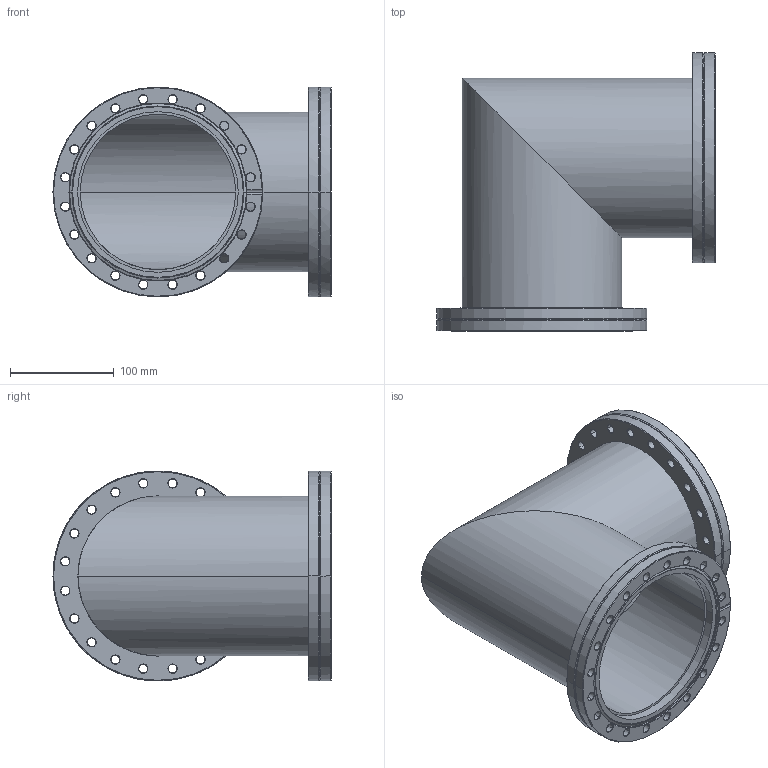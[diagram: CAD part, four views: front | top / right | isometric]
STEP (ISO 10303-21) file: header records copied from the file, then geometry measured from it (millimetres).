
FILE_DESCRIPTION((''),'2;1');
FILE_NAME('N:\Transfer\Berger Martin\Leybold\C15\83608.stp','2005-02-07T08:51:15',('VCRC_L'),(''),'Autodesk Inventor 9','Autodesk Inventor 9','');
FILE_SCHEMA(('AUTOMOTIVE_DESIGN { 1 0 10303 214 1 1 1 1 }'));
Length unit declared in the file: millimetre
Products named in the file (1): 83608
Bounding box: 268.25 x 268.25 x 202.5 mm (x, y, z)
Volume: 819022.1 mm3; surface area: 436611.5 mm2
Topology: 1 solids, 1 shells, 340 faces, 806 edges, 476 vertices
Faces by surface type: cone 188, bspline 94, cylinder 34, torus 12, plane 12
Entity records: 11719 total; most frequent: CARTESIAN_POINT 3759, DIRECTION 1758, ORIENTED_EDGE 1612, EDGE_CURVE 806, AXIS2_PLACEMENT_3D 729, VERTEX_POINT 476, CIRCLE 474, EDGE_LOOP 430
